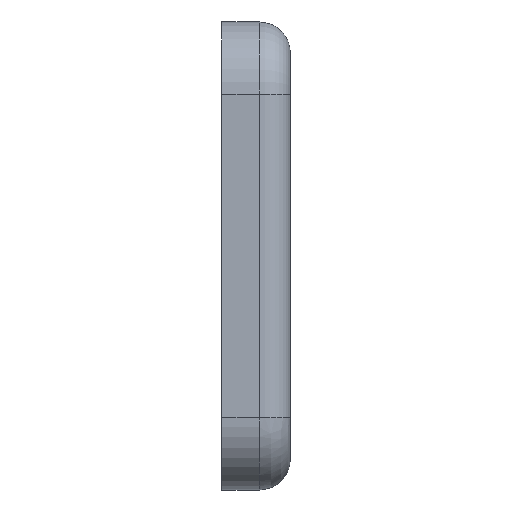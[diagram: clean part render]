
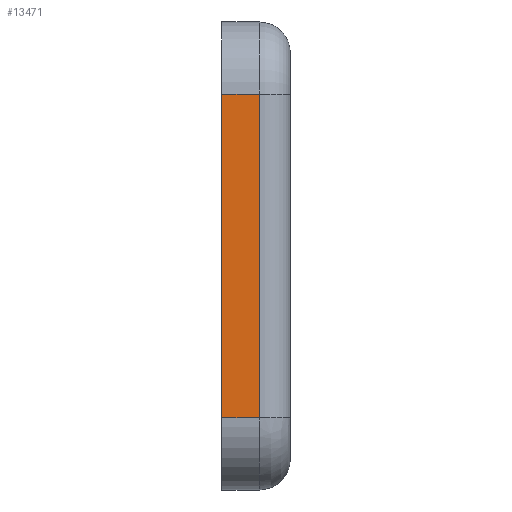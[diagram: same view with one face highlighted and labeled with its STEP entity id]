
A CAD part, left-side view. The second image highlights one B-rep face of the part: STEP entity #13471.
In plain terms, the highlighted planar face has unit normal (-1, 0, 0).
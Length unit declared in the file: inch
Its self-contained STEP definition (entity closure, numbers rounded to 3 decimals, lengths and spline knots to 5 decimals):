
#983 = CARTESIAN_POINT ( 'NONE',  ( -3.1139, -1.3325, -1.31117 ) ) ;
#1284 = VERTEX_POINT ( 'NONE', #16920 ) ;
#1518 = DIRECTION ( 'NONE',  ( 0., 1., 0. ) ) ;
#2868 = CARTESIAN_POINT ( 'NONE',  ( -3.1139, -1.0825, -1.31117 ) ) ;
#3799 = ORIENTED_EDGE ( 'NONE', *, *, #15406, .F. ) ;
#4785 = EDGE_CURVE ( 'NONE', #8566, #1284, #6314, .T. ) ;
#4937 = VECTOR ( 'NONE', #22607, 39.37008 ) ;
#5035 = DIRECTION ( 'NONE',  ( 0., 0., 1. ) ) ;
#5237 = CARTESIAN_POINT ( 'NONE',  ( -3.1139, -1.3325, -1.31117 ) ) ;
#5319 = AXIS2_PLACEMENT_3D ( 'NONE', #983, #6570, #22072 ) ;
#5762 = CARTESIAN_POINT ( 'NONE',  ( -3.1139, -0.7775, -1.31117 ) ) ;
#6314 = LINE ( 'NONE', #9093, #10345 ) ;
#6367 = LINE ( 'NONE', #20597, #6454 ) ;
#6454 = VECTOR ( 'NONE', #8227, 39.37008 ) ;
#6570 = DIRECTION ( 'NONE',  ( -1., 0., 0. ) ) ;
#7362 = EDGE_CURVE ( 'NONE', #8566, #8768, #10360, .T. ) ;
#8227 = DIRECTION ( 'NONE',  ( 0., 0., 1. ) ) ;
#8566 = VERTEX_POINT ( 'NONE', #2868 ) ;
#8688 = VERTEX_POINT ( 'NONE', #8789 ) ;
#8768 = VERTEX_POINT ( 'NONE', #5762 ) ;
#8789 = CARTESIAN_POINT ( 'NONE',  ( -3.1139, -0.7775, 1.31119 ) ) ;
#9093 = CARTESIAN_POINT ( 'NONE',  ( -3.1139, -1.0825, 1.31119 ) ) ;
#9817 = FACE_OUTER_BOUND ( 'NONE', #15515, .T. ) ;
#9927 = ORIENTED_EDGE ( 'NONE', *, *, #7362, .F. ) ;
#10345 = VECTOR ( 'NONE', #5035, 39.37008 ) ;
#10360 = LINE ( 'NONE', #5237, #12425 ) ;
#12425 = VECTOR ( 'NONE', #1518, 39.37008 ) ;
#13471 = ADVANCED_FACE ( 'NONE', ( #9817 ), #20800, .T. ) ;
#13601 = LINE ( 'NONE', #17339, #4937 ) ;
#14398 = EDGE_CURVE ( 'NONE', #1284, #8688, #13601, .T. ) ;
#15406 = EDGE_CURVE ( 'NONE', #8768, #8688, #6367, .T. ) ;
#15515 = EDGE_LOOP ( 'NONE', ( #3799, #9927, #21313, #16575 ) ) ;
#16575 = ORIENTED_EDGE ( 'NONE', *, *, #14398, .T. ) ;
#16920 = CARTESIAN_POINT ( 'NONE',  ( -3.1139, -1.0825, 1.31119 ) ) ;
#17339 = CARTESIAN_POINT ( 'NONE',  ( -3.1139, -1.3325, 1.31119 ) ) ;
#20597 = CARTESIAN_POINT ( 'NONE',  ( -3.1139, -0.7775, -1.31117 ) ) ;
#20800 = PLANE ( 'NONE',  #5319 ) ;
#21313 = ORIENTED_EDGE ( 'NONE', *, *, #4785, .T. ) ;
#22072 = DIRECTION ( 'NONE',  ( 0., 0., 1. ) ) ;
#22607 = DIRECTION ( 'NONE',  ( 0., 1., 0. ) ) ;
